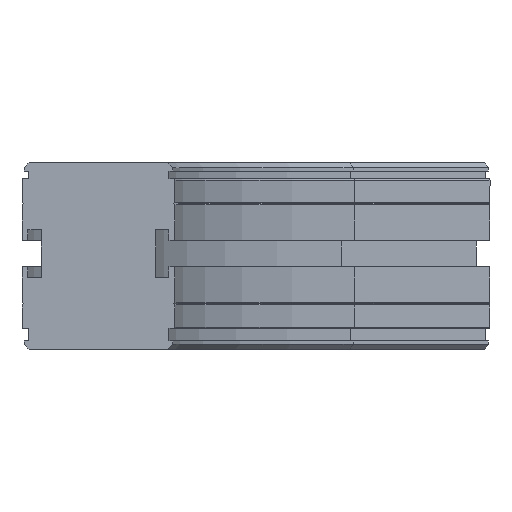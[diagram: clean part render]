
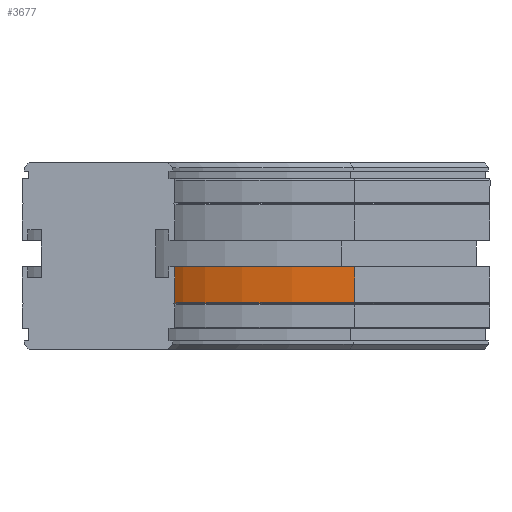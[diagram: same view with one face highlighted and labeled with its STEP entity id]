
A CAD part, left-side view. The second image highlights one B-rep face of the part: STEP entity #3677.
In plain terms, the highlighted cylindrical face has radius 257 mm (diameter 514 mm), a partial arc.
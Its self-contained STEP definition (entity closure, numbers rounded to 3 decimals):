
#2334=CARTESIAN_POINT('',(261.726,-107.274,-58.5));
#2335=VERTEX_POINT('',#2334);
#2365=CARTESIAN_POINT('',(261.726,-107.274,-43.5));
#2366=VERTEX_POINT('',#2365);
#2373=CARTESIAN_POINT('',(261.726,-107.274,-58.5));
#2374=DIRECTION('',(0.0,0.0,1.0));
#2375=VECTOR('',#2374,15.);
#2376=LINE('',#2373,#2375);
#2377=EDGE_CURVE('',#2335,#2366,#2376,.T.);
#3634=CARTESIAN_POINT('',(80.0,-32.0,-58.5));
#3635=VERTEX_POINT('',#3634);
#3636=CARTESIAN_POINT('',(80.,-289.,-58.5));
#3637=DIRECTION('',(0.0,0.0,-1.));
#3638=DIRECTION('',(-0.707,-0.707,0.0));
#3639=AXIS2_PLACEMENT_3D('',#3636,#3637,#3638);
#3640=CIRCLE('',#3639,257.);
#3641=EDGE_CURVE('',#3635,#2335,#3640,.T.);
#3653=CARTESIAN_POINT('',(80.,-289.,-51.));
#3654=DIRECTION('',(0.0,0.0,-1.0));
#3655=DIRECTION('',(-0.707,-0.707,0.0));
#3656=AXIS2_PLACEMENT_3D('',#3653,#3654,#3655);
#3657=CYLINDRICAL_SURFACE('',#3656,257.);
#3658=ORIENTED_EDGE('',*,*,#2377,.T.);
#3659=CARTESIAN_POINT('',(80.0,-32.0,-43.5));
#3660=VERTEX_POINT('',#3659);
#3661=CARTESIAN_POINT('',(80.,-289.,-43.5));
#3662=DIRECTION('',(0.0,0.0,-1.));
#3663=DIRECTION('',(-0.707,-0.707,0.0));
#3664=AXIS2_PLACEMENT_3D('',#3661,#3662,#3663);
#3665=CIRCLE('',#3664,257.);
#3666=EDGE_CURVE('',#3660,#2366,#3665,.T.);
#3667=ORIENTED_EDGE('',*,*,#3666,.F.);
#3668=CARTESIAN_POINT('',(80.0,-32.0,-58.5));
#3669=DIRECTION('',(0.0,0.0,1.0));
#3670=VECTOR('',#3669,15.);
#3671=LINE('',#3668,#3670);
#3672=EDGE_CURVE('',#3635,#3660,#3671,.T.);
#3673=ORIENTED_EDGE('',*,*,#3672,.F.);
#3674=ORIENTED_EDGE('',*,*,#3641,.T.);
#3675=EDGE_LOOP('',(#3658,#3667,#3673,#3674));
#3676=FACE_OUTER_BOUND('',#3675,.T.);
#3677=ADVANCED_FACE('',(#3676),#3657,.F.);
